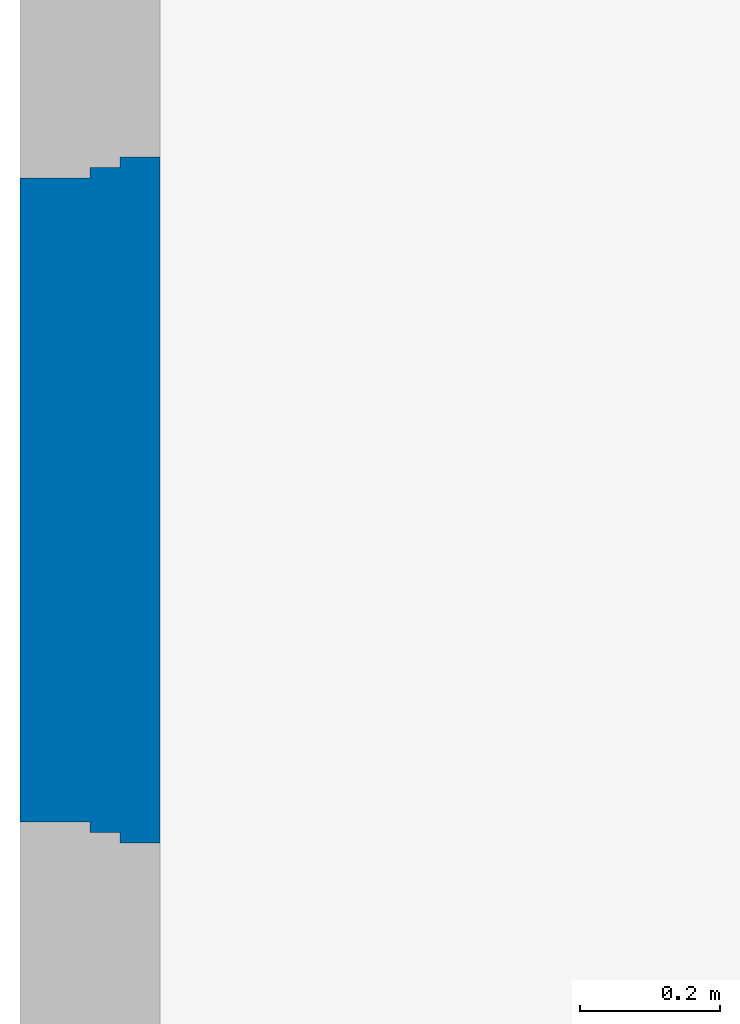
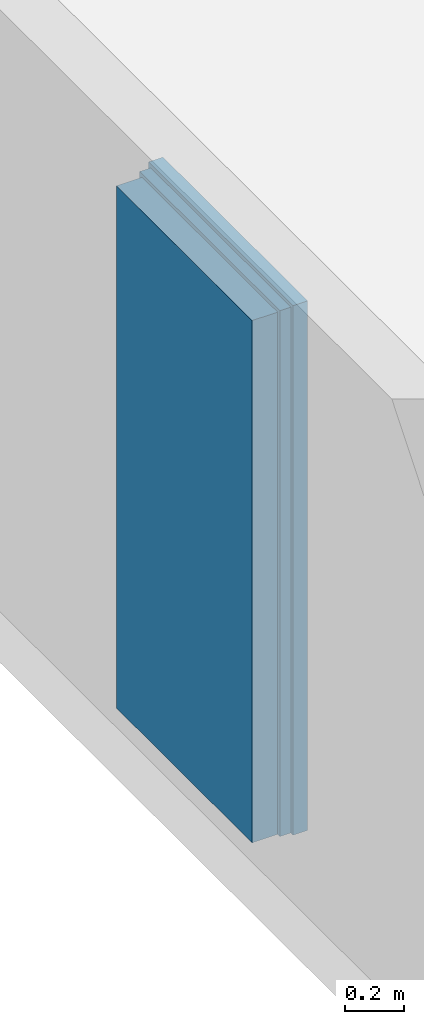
# One storey, part 3 of 3: 1 wall.
"""IFC2X3 building model written with IfcOpenShell, lengths in centimetres."""

from ifc_helpers import new_model, entity, si_unit, converted_unit, derived_unit, direction, frame, origin, place, context, subcontext, project, spatial, faceted_brep, material, layer, layer_set, type_object, element, save


model = new_model("IFC2X3")

# Units and contexts
model_context = context("Model", 3, precision=0.001, world=origin(), true_north=direction((6.123031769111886e-17, 1.0)))
body_context = subcontext(model_context, "Body", "Model", "MODEL_VIEW")
ifc_project = project(units=[si_unit("LENGTHUNIT", "METRE", prefix="CENTI"), si_unit("AREAUNIT", "SQUARE_METRE"), si_unit("VOLUMEUNIT", "CUBIC_METRE"), converted_unit("PLANEANGLEUNIT", "DEGREE", entity("IfcRatioMeasure", 0.017453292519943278), si_unit("PLANEANGLEUNIT", "RADIAN"), dimensions=[0, 0, 0, 0, 0, 0, 0]), si_unit("MASSUNIT", "GRAM", prefix="KILO"), derived_unit("MASSDENSITYUNIT", [(si_unit("MASSUNIT", "GRAM", prefix="KILO"), 1), (si_unit("LENGTHUNIT", "METRE"), -3)]), derived_unit("MOMENTOFINERTIAUNIT", [(si_unit("LENGTHUNIT", "METRE"), 4)]), si_unit("TIMEUNIT", "SECOND"), si_unit("FREQUENCYUNIT", "HERTZ"), si_unit("THERMODYNAMICTEMPERATUREUNIT", "DEGREE_CELSIUS"), derived_unit("THERMALTRANSMITTANCEUNIT", [(si_unit("MASSUNIT", "GRAM", prefix="KILO"), 1), (si_unit("THERMODYNAMICTEMPERATUREUNIT", "KELVIN"), -1), (si_unit("TIMEUNIT", "SECOND"), -3)]), derived_unit("VOLUMETRICFLOWRATEUNIT", [(si_unit("LENGTHUNIT", "METRE"), 3), (si_unit("TIMEUNIT", "SECOND"), -1)]), derived_unit("MASSFLOWRATEUNIT", [(si_unit("MASSUNIT", "GRAM", prefix="KILO"), 1), (si_unit("TIMEUNIT", "SECOND"), -1)]), derived_unit("ROTATIONALFREQUENCYUNIT", [(si_unit("TIMEUNIT", "SECOND"), -1)]), si_unit("ELECTRICCURRENTUNIT", "AMPERE"), si_unit("ELECTRICVOLTAGEUNIT", "VOLT"), si_unit("POWERUNIT", "WATT"), si_unit("FORCEUNIT", "NEWTON", prefix="KILO"), si_unit("ILLUMINANCEUNIT", "LUX"), si_unit("LUMINOUSFLUXUNIT", "LUMEN"), si_unit("LUMINOUSINTENSITYUNIT", "CANDELA"), derived_unit("USERDEFINED", [(si_unit("MASSUNIT", "GRAM", prefix="KILO"), -1), (si_unit("LENGTHUNIT", "METRE"), -2), (si_unit("TIMEUNIT", "SECOND"), 3), (si_unit("LUMINOUSFLUXUNIT", "LUMEN"), 1)]), derived_unit("SOUNDPOWERUNIT", [(si_unit("MASSUNIT", "GRAM", prefix="KILO"), 1), (si_unit("LENGTHUNIT", "METRE"), 2), (si_unit("TIMEUNIT", "SECOND"), -3)]), derived_unit("SOUNDPRESSUREUNIT", [(si_unit("MASSUNIT", "GRAM", prefix="KILO"), 1), (si_unit("LENGTHUNIT", "METRE"), -1), (si_unit("TIMEUNIT", "SECOND"), -2)]), derived_unit("LINEARVELOCITYUNIT", [(si_unit("LENGTHUNIT", "METRE"), 1), (si_unit("TIMEUNIT", "SECOND"), -1)]), si_unit("PRESSUREUNIT", "PASCAL"), derived_unit("USERDEFINED", [(si_unit("LENGTHUNIT", "METRE"), -2), (si_unit("MASSUNIT", "GRAM", prefix="KILO"), 1), (si_unit("TIMEUNIT", "SECOND"), -2)]), derived_unit("LINEARFORCEUNIT", [(si_unit("MASSUNIT", "GRAM", prefix="KILO"), 1), (si_unit("LENGTHUNIT", "METRE"), 1), (si_unit("TIMEUNIT", "SECOND"), -2), (si_unit("LENGTHUNIT", "METRE"), -1)]), derived_unit("PLANARFORCEUNIT", [(si_unit("MASSUNIT", "GRAM", prefix="KILO"), 1), (si_unit("LENGTHUNIT", "METRE"), 1), (si_unit("TIMEUNIT", "SECOND"), -2), (si_unit("LENGTHUNIT", "METRE"), -2)])], contexts=[model_context])

# Site, building, storey
site_placement = place(None, frame((1412.1772603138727, -701.9923171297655, 0.0)))
site = spatial("IfcSite", under=ifc_project, at=site_placement, Name="Default", CompositionType="ELEMENT")
building_placement = place(site_placement, origin())
building = spatial("IfcBuilding", under=site, at=building_placement, CompositionType="ELEMENT")
storey_placement = place(building_placement, frame((0.0, 0.0, -8.0)))
storey = spatial("IfcBuildingStorey", under=building, at=storey_placement, Name="-0.08_Dessus plancher", CompositionType="ELEMENT", Elevation=-8.000000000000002)

# Wall
ifc_material = material(Name="Maçonnerie - Béton")
ifc_layer = layer(ifc_material, 20.0)
ifc_layer_set = layer_set([ifc_layer], Name="Mur de base:Mur 20")
wall_type = type_object("IfcWallType", Name="Mur de base:Mur 20", PredefinedType="STANDARD", material=ifc_layer_set)
wall_placement = place(storey_placement, frame((-1778.177260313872, 547.9923171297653, 8.0), z_axis=(0.0, 0.0, 1.0), x_axis=(0.0, -1.0, 0.0)))
element("IfcWall", 1, at=wall_placement, inside=storey, type_object=wall_type, Name="Mur de base:Mur 20", ObjectType="Mur de base:Mur 20", context=body_context, shape_type="Brep", body=[
    faceted_brep([(95.0, -10.0, 216.0), (3.0, -10.0, 216.0), (3.0, -10.0, 0.0), (95.0, -10.0, 0.0), (0.0, 10.0, 0.0), (0.0, 10.0, 219.0), (98.0, 10.0, 219.0), (98.0, 10.0, 0.0), (95.0, 0.0, 216.0), (3.0, 0.0, 216.0), (96.49999999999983, 0.0, 0.0), (95.0, 0.0, 0.0), (3.0, 0.0, 0.0), (1.5000000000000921, 0.0, 0.0), (1.5000000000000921, 4.299999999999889, 0.0), (0.0, 4.299999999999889, 0.0), (98.0, 4.299999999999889, 0.0), (96.49999999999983, 4.299999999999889, 0.0), (98.0, 4.299999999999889, 219.0), (0.0, 4.299999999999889, 219.0), (1.5000000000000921, 4.299999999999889, 217.49999999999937), (96.49999999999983, 4.299999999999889, 217.49999999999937), (1.5000000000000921, 0.0, 217.49999999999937), (96.49999999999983, 0.0, 217.49999999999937)], [[[0, 1, 2, 3]], [[4, 5, 6, 7]], [[8, 9, 1, 0]], [[10, 11, 3, 2, 12, 13, 14, 15, 4, 7, 16, 17]], [[11, 8, 0, 3]], [[9, 12, 2, 1]], [[17, 16, 18, 19, 15, 14, 20, 21]], [[4, 15, 19, 5]], [[19, 18, 6, 5]], [[16, 7, 6, 18]], [[14, 13, 22, 20]], [[9, 8, 11, 10, 23, 22, 13, 12]], [[21, 20, 22, 23]], [[10, 17, 21, 23]]]),
])

save(model, "model.ifc")
